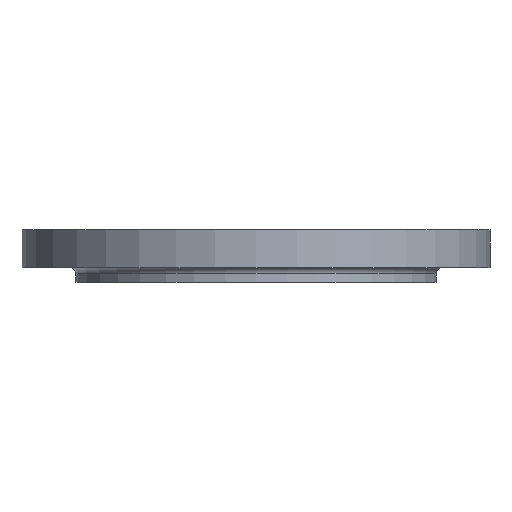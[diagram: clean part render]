
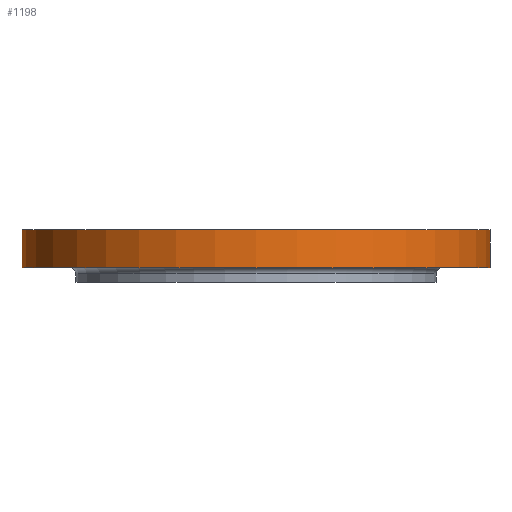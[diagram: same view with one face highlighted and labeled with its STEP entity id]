
A CAD part, front view. The second image highlights one B-rep face of the part: STEP entity #1198.
In plain terms, the highlighted cylindrical face has radius 445 mm (diameter 890 mm), a partial arc.
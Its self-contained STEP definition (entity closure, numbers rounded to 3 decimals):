
#19 = CARTESIAN_POINT ( 'NONE',  ( -445., 0., -72. ) ) ;
#138 = EDGE_CURVE ( 'NONE', #977, #1004, #863, .T. ) ;
#162 = VECTOR ( 'NONE', #860, 1000. ) ;
#290 = LINE ( 'NONE', #334, #293 ) ;
#293 = VECTOR ( 'NONE', #408, 1000. ) ;
#334 = CARTESIAN_POINT ( 'NONE',  ( -445., 0., -150. ) ) ;
#374 = DIRECTION ( 'NONE',  ( 1., 0., 0. ) ) ;
#376 = DIRECTION ( 'NONE',  ( 0., 0., 1. ) ) ;
#377 = CARTESIAN_POINT ( 'NONE',  ( 0., 0., -150. ) ) ;
#378 = CYLINDRICAL_SURFACE ( 'NONE', #1194, 445. ) ;
#379 = FACE_OUTER_BOUND ( 'NONE', #1489, .T. ) ;
#408 = DIRECTION ( 'NONE',  ( 0., 0., 1. ) ) ;
#439 = DIRECTION ( 'NONE',  ( 1., 0., 0. ) ) ;
#441 = DIRECTION ( 'NONE',  ( 0., 0., 1. ) ) ;
#442 = CARTESIAN_POINT ( 'NONE',  ( 0., 0., 0. ) ) ;
#467 = CARTESIAN_POINT ( 'NONE',  ( -445., 0., 0. ) ) ;
#471 = CARTESIAN_POINT ( 'NONE',  ( 445., 0., 0. ) ) ;
#517 = CARTESIAN_POINT ( 'NONE',  ( 445., 0., -72. ) ) ;
#860 = DIRECTION ( 'NONE',  ( 0., 0., 1. ) ) ;
#861 = CARTESIAN_POINT ( 'NONE',  ( 445., 0., -150. ) ) ;
#863 = LINE ( 'NONE', #861, #162 ) ;
#977 = VERTEX_POINT ( 'NONE', #517 ) ;
#1004 = VERTEX_POINT ( 'NONE', #471 ) ;
#1009 = VERTEX_POINT ( 'NONE', #467 ) ;
#1034 = DIRECTION ( 'NONE',  ( 0., 0., 1. ) ) ;
#1048 = CARTESIAN_POINT ( 'NONE',  ( 0., 0., -72. ) ) ;
#1062 = EDGE_CURVE ( 'NONE', #1009, #1004, #1106, .T. ) ;
#1106 = CIRCLE ( 'NONE', #1107, 445. ) ;
#1107 = AXIS2_PLACEMENT_3D ( 'NONE', #442, #441, #439 ) ;
#1194 = AXIS2_PLACEMENT_3D ( 'NONE', #377, #376, #374 ) ;
#1198 = ADVANCED_FACE ( 'NONE', ( #379 ), #378, .T. ) ;
#1219 = DIRECTION ( 'NONE',  ( 1., 0., 0. ) ) ;
#1375 = CIRCLE ( 'NONE', #1378, 445. ) ;
#1378 = AXIS2_PLACEMENT_3D ( 'NONE', #1048, #1034, #1219 ) ;
#1489 = EDGE_LOOP ( 'NONE', ( #1578, #1581, #1582, #1584 ) ) ;
#1537 = VERTEX_POINT ( 'NONE', #19 ) ;
#1578 = ORIENTED_EDGE ( 'NONE', *, *, #1703, .F. ) ;
#1581 = ORIENTED_EDGE ( 'NONE', *, *, #1800, .T. ) ;
#1582 = ORIENTED_EDGE ( 'NONE', *, *, #138, .T. ) ;
#1584 = ORIENTED_EDGE ( 'NONE', *, *, #1062, .F. ) ;
#1703 = EDGE_CURVE ( 'NONE', #1537, #1009, #290, .T. ) ;
#1800 = EDGE_CURVE ( 'NONE', #1537, #977, #1375, .T. ) ;
